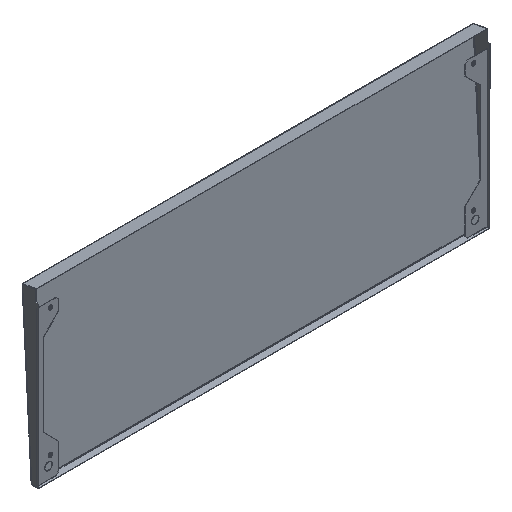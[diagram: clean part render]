
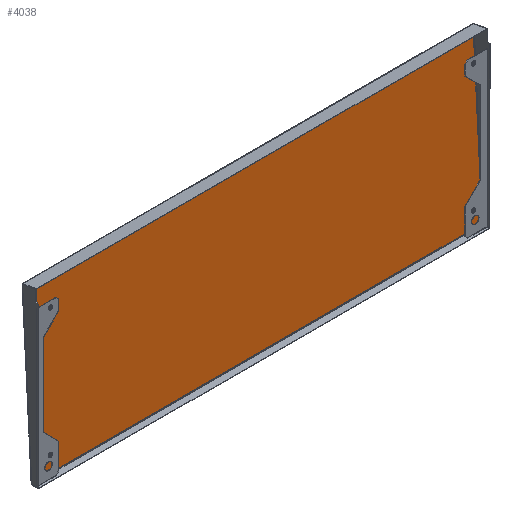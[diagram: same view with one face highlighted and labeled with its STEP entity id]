
A CAD part, isometric view. The second image highlights one B-rep face of the part: STEP entity #4038.
In plain terms, the highlighted planar face has unit normal (0, -0.999, 0.054).
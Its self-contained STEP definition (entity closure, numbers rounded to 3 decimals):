
#236 = EDGE_CURVE ( 'NONE', #1563, #1565, #2540, .T. ) ;
#237 = EDGE_CURVE ( 'NONE', #1565, #1564, #2543, .T. ) ;
#238 = EDGE_CURVE ( 'NONE', #1562, #1563, #2546, .T. ) ;
#239 = EDGE_CURVE ( 'NONE', #1564, #1562, #2549, .T. ) ;
#404 = AXIS2_PLACEMENT_3D ( 'NONE', #1186, #1187, #1188 ) ;
#408 = FACE_OUTER_BOUND ( 'NONE', #1731, .T. ) ;
#689 = VECTOR ( 'NONE', #2551, 1000. ) ;
#691 = VECTOR ( 'NONE', #2548, 1000. ) ;
#693 = VECTOR ( 'NONE', #2545, 1000. ) ;
#695 = VECTOR ( 'NONE', #2542, 1000. ) ;
#1185 = PLANE ( 'NONE',  #404 ) ;
#1186 = CARTESIAN_POINT ( 'NONE',  ( -1610., 57.67, 604.541 ) ) ;
#1187 = DIRECTION ( 'NONE',  ( 0., 0.999, -0.054 ) ) ;
#1188 = DIRECTION ( 'NONE',  ( 0., 0.054, 0.999 ) ) ;
#1562 = VERTEX_POINT ( 'NONE', #2751 ) ;
#1563 = VERTEX_POINT ( 'NONE', #2752 ) ;
#1564 = VERTEX_POINT ( 'NONE', #2753 ) ;
#1565 = VERTEX_POINT ( 'NONE', #2754 ) ;
#1731 = EDGE_LOOP ( 'NONE', ( #1997, #1995, #1996, #1994 ) ) ;
#1994 = ORIENTED_EDGE ( 'NONE', *, *, #239, .F. ) ;
#1995 = ORIENTED_EDGE ( 'NONE', *, *, #236, .F. ) ;
#1996 = ORIENTED_EDGE ( 'NONE', *, *, #238, .F. ) ;
#1997 = ORIENTED_EDGE ( 'NONE', *, *, #237, .F. ) ;
#2540 = LINE ( 'NONE', #2541, #695 ) ;
#2541 = CARTESIAN_POINT ( 'NONE',  ( -1610., 24.905, 1.967 ) ) ;
#2542 = DIRECTION ( 'NONE',  ( -1., 0., 0. ) ) ;
#2543 = LINE ( 'NONE', #2544, #693 ) ;
#2544 = CARTESIAN_POINT ( 'NONE',  ( -1608., 57.67, 604.541 ) ) ;
#2545 = DIRECTION ( 'NONE',  ( 0., 0.054, 0.999 ) ) ;
#2546 = LINE ( 'NONE', #2547, #691 ) ;
#2547 = CARTESIAN_POINT ( 'NONE',  ( -2., 57.67, 604.541 ) ) ;
#2548 = DIRECTION ( 'NONE',  ( 0., -0.054, -0.999 ) ) ;
#2549 = LINE ( 'NONE', #2550, #689 ) ;
#2550 = CARTESIAN_POINT ( 'NONE',  ( -1610., 57.574, 602.774 ) ) ;
#2551 = DIRECTION ( 'NONE',  ( 1., 0., 0. ) ) ;
#2751 = CARTESIAN_POINT ( 'NONE',  ( -2., 57.574, 602.774 ) ) ;
#2752 = CARTESIAN_POINT ( 'NONE',  ( -2., 24.905, 1.967 ) ) ;
#2753 = CARTESIAN_POINT ( 'NONE',  ( -1608., 57.574, 602.774 ) ) ;
#2754 = CARTESIAN_POINT ( 'NONE',  ( -1608., 24.905, 1.967 ) ) ;
#4038 = ADVANCED_FACE ( 'NONE', ( #408 ), #1185, .F. ) ;
